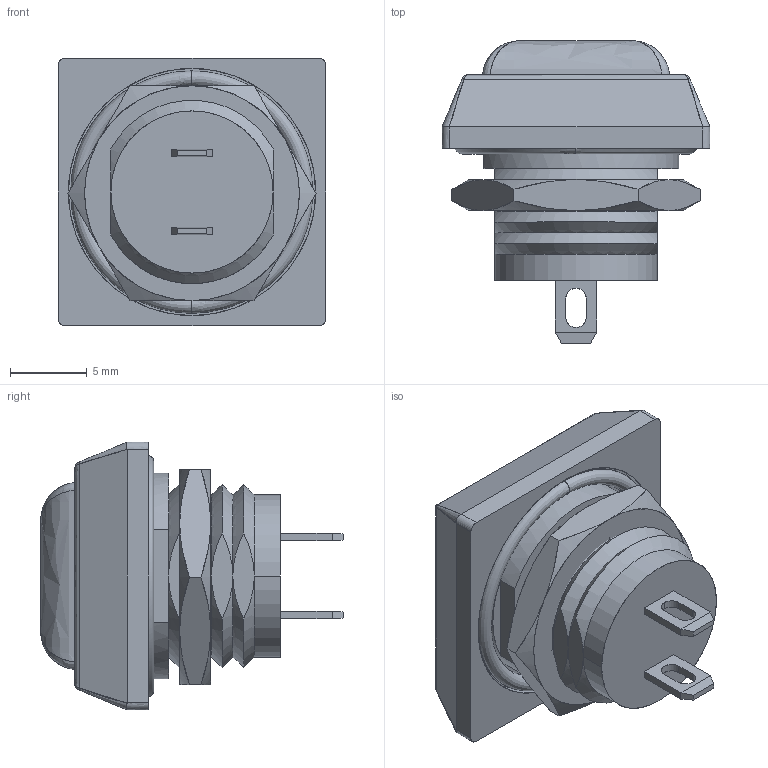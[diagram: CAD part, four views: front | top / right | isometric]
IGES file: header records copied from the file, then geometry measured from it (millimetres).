
Start section: SolidWorks IGES file using analytic representation for surfaces
Global section: file name: C:\Users\Alan_B\Desktop\3D files for IGES and STEP\59-21X.IGS; native system: SolidWorks 2015; preprocessor: SolidWorks 2015; author: Alan_B; date: 150707.164501; units: millimetre
Bounding box: 17.45 x 19.7 x 17.45 mm (x, y, z)
Surface area: 2180.7 mm2 (no closed solid volume)
Topology: 0 solids, 0 shells, 160 faces, 1503 edges, 1495 vertices
Faces by surface type: bspline 83, revolution 77
